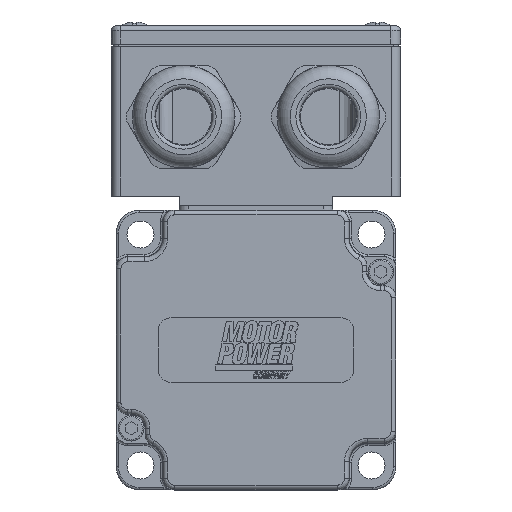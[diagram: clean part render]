
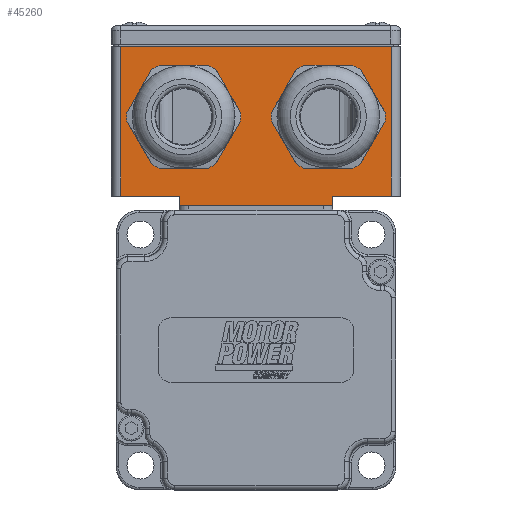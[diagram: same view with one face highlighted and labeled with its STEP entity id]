
A CAD part, front view. The second image highlights one B-rep face of the part: STEP entity #45260.
In plain terms, the highlighted planar face has unit normal (0, -1, 0) as drawn and (-1, 0, 0) by its records, which use the part's own axes.
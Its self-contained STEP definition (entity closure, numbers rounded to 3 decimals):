
#1934=PLANE('',#48753);
#3604=CIRCLE('',#48754,9.865);
#3605=CIRCLE('',#48755,9.865);
#12768=ORIENTED_EDGE('',*,*,#18901,.F.);
#12769=ORIENTED_EDGE('',*,*,#18902,.F.);
#12770=ORIENTED_EDGE('',*,*,#18806,.T.);
#12771=ORIENTED_EDGE('',*,*,#18903,.F.);
#12772=ORIENTED_EDGE('',*,*,#18904,.F.);
#12773=ORIENTED_EDGE('',*,*,#18905,.T.);
#12774=ORIENTED_EDGE('',*,*,#18817,.T.);
#12775=ORIENTED_EDGE('',*,*,#18883,.F.);
#12776=ORIENTED_EDGE('',*,*,#18906,.F.);
#12777=ORIENTED_EDGE('',*,*,#18899,.T.);
#18806=EDGE_CURVE('',#22588,#22586,#25570,.T.);
#18817=EDGE_CURVE('',#22594,#22598,#25576,.T.);
#18883=EDGE_CURVE('',#22660,#22598,#25605,.T.);
#18899=EDGE_CURVE('',#22669,#22588,#25618,.T.);
#18901=EDGE_CURVE('',#22670,#22670,#3604,.T.);
#18902=EDGE_CURVE('',#22671,#22671,#3605,.T.);
#18903=EDGE_CURVE('',#22672,#22586,#25619,.T.);
#18904=EDGE_CURVE('',#22673,#22672,#25620,.T.);
#18905=EDGE_CURVE('',#22673,#22594,#25621,.T.);
#18906=EDGE_CURVE('',#22669,#22660,#25622,.T.);
#22586=VERTEX_POINT('',#73315);
#22588=VERTEX_POINT('',#73318);
#22594=VERTEX_POINT('',#73331);
#22598=VERTEX_POINT('',#73339);
#22660=VERTEX_POINT('',#73474);
#22669=VERTEX_POINT('',#73505);
#22670=VERTEX_POINT('',#73509);
#22671=VERTEX_POINT('',#73511);
#22672=VERTEX_POINT('',#73513);
#22673=VERTEX_POINT('',#73515);
#25570=LINE('',#73317,#28289);
#25576=LINE('',#73340,#28295);
#25605=LINE('',#73473,#28324);
#25618=LINE('',#73504,#28337);
#25619=LINE('',#73512,#28338);
#25620=LINE('',#73514,#28339);
#25621=LINE('',#73516,#28340);
#25622=LINE('',#73517,#28341);
#28289=VECTOR('',#57583,1000.);
#28295=VECTOR('',#57601,1000.);
#28324=VECTOR('',#57716,1000.);
#28337=VECTOR('',#57747,1000.);
#28338=VECTOR('',#57756,1000.);
#28339=VECTOR('',#57757,1000.);
#28340=VECTOR('',#57758,1000.);
#28341=VECTOR('',#57759,1000.);
#30820=EDGE_LOOP('',(#12768));
#30821=EDGE_LOOP('',(#12769));
#30822=EDGE_LOOP('',(#12770,#12771,#12772,#12773,#12774,#12775,#12776,#12777));
#33578=FACE_BOUND('',#30820,.T.);
#33579=FACE_BOUND('',#30821,.T.);
#33580=FACE_BOUND('',#30822,.T.);
#45260=ADVANCED_FACE('',(#33578,#33579,#33580),#1934,.F.);
#48753=AXIS2_PLACEMENT_3D('',#73507,#57750,#57751);
#48754=AXIS2_PLACEMENT_3D('',#73508,#57752,#57753);
#48755=AXIS2_PLACEMENT_3D('',#73510,#57754,#57755);
#57583=DIRECTION('',(0.,-1.,0.));
#57601=DIRECTION('',(0.,-1.,0.));
#57716=DIRECTION('',(0.,0.,-1.));
#57747=DIRECTION('',(0.,0.,-1.));
#57750=DIRECTION('',(1.,0.,0.));
#57751=DIRECTION('',(0.,0.,-1.));
#57752=DIRECTION('',(-1.,0.,0.));
#57753=DIRECTION('',(0.,-1.,0.));
#57754=DIRECTION('',(-1.,0.,0.));
#57755=DIRECTION('',(0.,-1.,0.));
#57756=DIRECTION('',(0.,0.,1.));
#57757=DIRECTION('',(0.,1.,0.));
#57758=DIRECTION('',(0.,0.,1.));
#57759=DIRECTION('',(0.,-1.,0.));
#73315=CARTESIAN_POINT('',(-37.5,16.5,0.));
#73317=CARTESIAN_POINT('',(-37.5,29.,0.));
#73318=CARTESIAN_POINT('',(-37.5,29.,0.));
#73331=CARTESIAN_POINT('',(-37.5,-16.5,0.));
#73339=CARTESIAN_POINT('',(-37.5,-29.,0.));
#73340=CARTESIAN_POINT('',(-37.5,29.,0.));
#73473=CARTESIAN_POINT('',(-37.5,-29.,32.));
#73474=CARTESIAN_POINT('',(-37.5,-29.,32.));
#73504=CARTESIAN_POINT('',(-37.5,29.,32.));
#73505=CARTESIAN_POINT('',(-37.5,29.,32.));
#73507=CARTESIAN_POINT('',(-37.5,29.,32.));
#73508=CARTESIAN_POINT('',(-37.5,15.5,17.));
#73509=CARTESIAN_POINT('',(-37.5,5.635,17.));
#73510=CARTESIAN_POINT('',(-37.5,-15.5,17.));
#73511=CARTESIAN_POINT('',(-37.5,-25.365,17.));
#73512=CARTESIAN_POINT('',(-37.5,16.5,-2.));
#73513=CARTESIAN_POINT('',(-37.5,16.5,-2.));
#73514=CARTESIAN_POINT('',(-37.5,-16.5,-2.));
#73515=CARTESIAN_POINT('',(-37.5,-16.5,-2.));
#73516=CARTESIAN_POINT('',(-37.5,-16.5,-2.));
#73517=CARTESIAN_POINT('',(-37.5,29.,32.));
